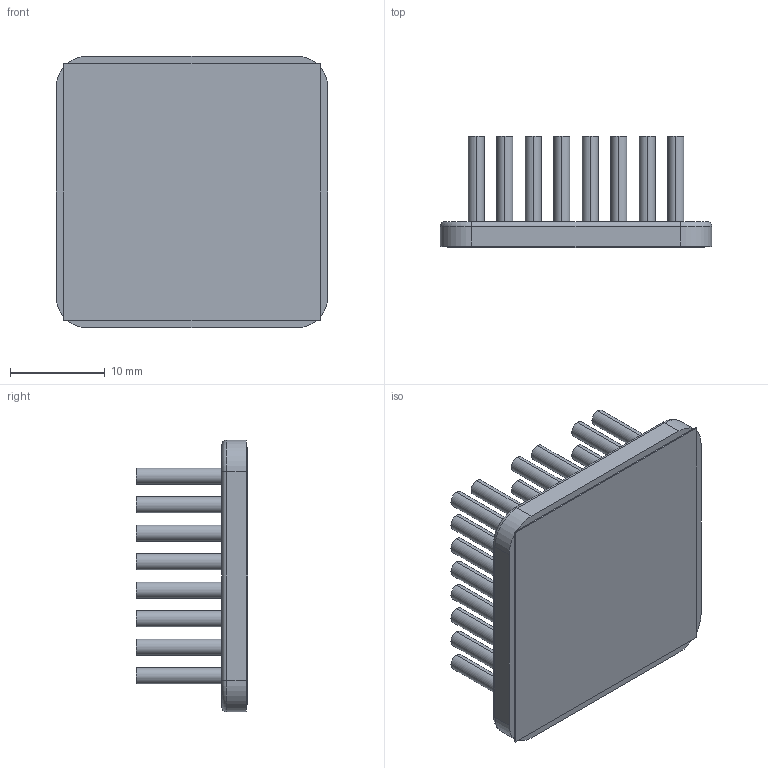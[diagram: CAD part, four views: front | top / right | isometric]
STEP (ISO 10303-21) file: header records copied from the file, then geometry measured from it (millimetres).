
FILE_DESCRIPTION (( 'STEP AP214' ), '1' );
FILE_NAME ('INM29002-12PCU-2.6.STEP', '2023-03-02T23:03:53', ( '' ), ( '' ), 'SwSTEP 2.0', 'SolidWorks 2020', '' );
FILE_SCHEMA (( 'AUTOMOTIVE_DESIGN' ));
Length unit declared in the file: inch
Products named in the file (1): INM29002-12PCU-2.6
Bounding box: 28.6 x 11.73 x 28.6 mm (x, y, z)
Volume: 3332.9 mm3; surface area: 6039.5 mm2
Topology: 2 solids, 2 shells, 192 faces, 388 edges, 256 vertices
Faces by surface type: cylinder 120, plane 68, torus 4
Entity records: 7679 total; most frequent: DIRECTION 1018, CARTESIAN_POINT 837, ORIENTED_EDGE 776, AXIS2_PLACEMENT_3D 437, EDGE_CURVE 388, VERTEX_POINT 256, EDGE_LOOP 248, CIRCLE 244
